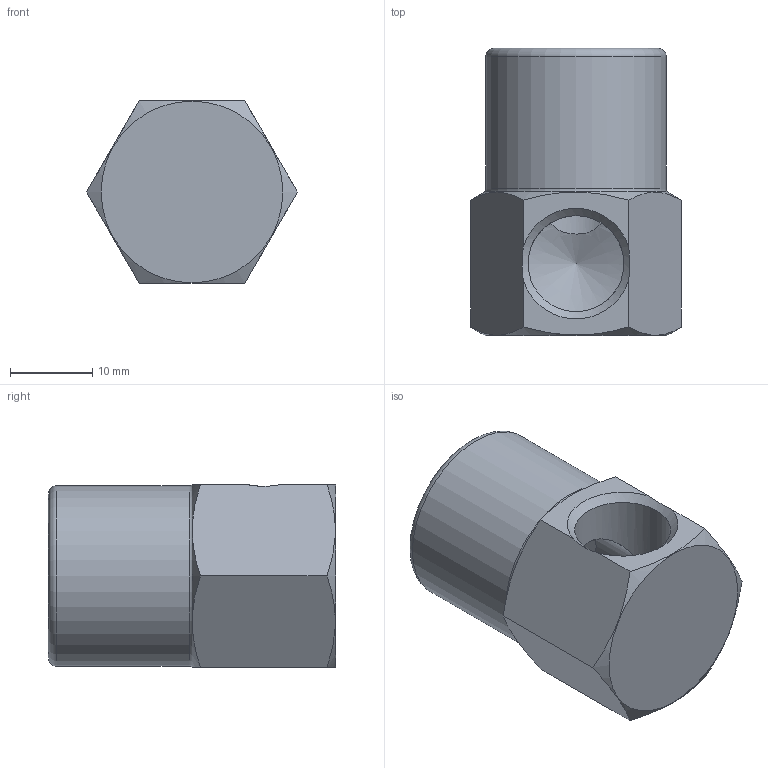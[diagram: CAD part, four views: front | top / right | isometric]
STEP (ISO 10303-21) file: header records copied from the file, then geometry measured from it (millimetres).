
FILE_DESCRIPTION(/* description */ (''),/* implementation_level */ '2;1');
FILE_NAME(/* name */ 'C:/Users/drich/Desktop/CAD FILES/SINCE 1-10-20/Rear Load Cascades/Quick Coupler Type/Head Only/1438S v1.step',/* time_stamp */ '2020-01-13T19:29:14-06:00',/* author */ (''),/* organization */ (''),/* preprocessor_version */ 'ST-DEVELOPER v18',/* originating_system */ 'Autodesk Translation Framework v8.12.0.6',/* authorisation */ '');
FILE_SCHEMA (('AUTOMOTIVE_DESIGN { 1 0 10303 214 3 1 1 }'));
Length unit declared in the file: inch
Products named in the file (1): 1438S
Bounding box: 25.66 x 34.92 x 22.23 mm (x, y, z)
Volume: 8881.1 mm3; surface area: 4602.4 mm2
Topology: 1 solids, 1 shells, 21 faces, 59 edges, 38 vertices
Faces by surface type: plane 9, cone 6, cylinder 4, torus 2
Full cylindrical faces by diameter (mm): 11.1 x1, 11.668 x1, 15.173 x1, 21.971 x1
Entity records: 752 total; most frequent: CARTESIAN_POINT 212, ORIENTED_EDGE 116, DIRECTION 102, EDGE_CURVE 58, AXIS2_PLACEMENT_3D 42, VERTEX_POINT 38, EDGE_LOOP 22, FACE_OUTER_BOUND 21
